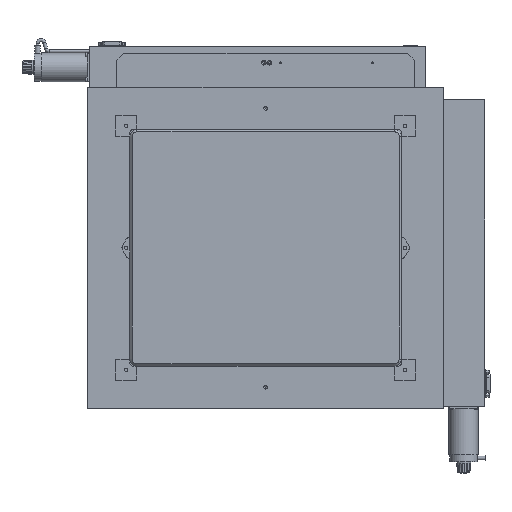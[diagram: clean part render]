
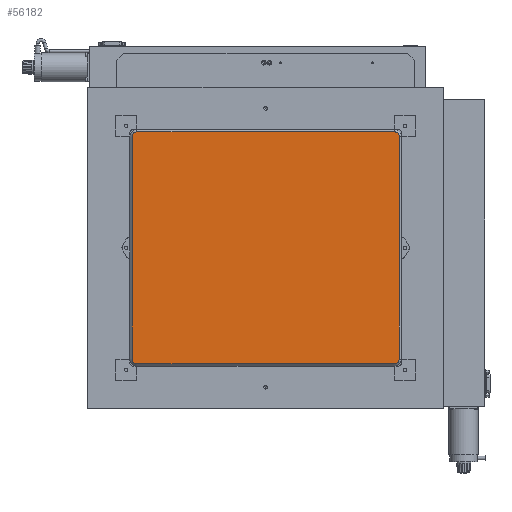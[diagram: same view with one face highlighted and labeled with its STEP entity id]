
A CAD part, top view. The second image highlights one B-rep face of the part: STEP entity #56182.
In plain terms, the highlighted planar face has unit normal (0, 0, 1).
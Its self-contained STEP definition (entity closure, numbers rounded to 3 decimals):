
#4977=CIRCLE('',#61143,7.);
#4978=CIRCLE('',#61145,7.);
#4979=CIRCLE('',#61149,7.);
#4982=CIRCLE('',#61153,7.);
#7924=FACE_OUTER_BOUND('',#11550,.T.);
#11550=EDGE_LOOP('',(#48597,#48598,#48599,#48600,#48601,#48602,#48603,#48604));
#16147=LINE('',#98020,#20757);
#16152=LINE('',#98034,#20762);
#16155=LINE('',#98039,#20765);
#16159=LINE('',#98054,#20769);
#20757=VECTOR('',#75082,10.);
#20762=VECTOR('',#75097,10.);
#20765=VECTOR('',#75102,10.);
#20769=VECTOR('',#75120,10.);
#25925=VERTEX_POINT('',#98017);
#25926=VERTEX_POINT('',#98019);
#25927=VERTEX_POINT('',#98023);
#25928=VERTEX_POINT('',#98027);
#25930=VERTEX_POINT('',#98032);
#25931=VERTEX_POINT('',#98037);
#25933=VERTEX_POINT('',#98042);
#25934=VERTEX_POINT('',#98047);
#33473=EDGE_CURVE('',#25925,#25926,#16147,.T.);
#33476=EDGE_CURVE('',#25927,#25925,#4977,.T.);
#33478=EDGE_CURVE('',#25926,#25928,#4978,.T.);
#33480=EDGE_CURVE('',#25930,#25927,#16152,.T.);
#33483=EDGE_CURVE('',#25928,#25931,#16155,.T.);
#33485=EDGE_CURVE('',#25933,#25930,#4979,.T.);
#33489=EDGE_CURVE('',#25931,#25934,#4982,.T.);
#33491=EDGE_CURVE('',#25934,#25933,#16159,.T.);
#48597=ORIENTED_EDGE('',*,*,#33473,.F.);
#48598=ORIENTED_EDGE('',*,*,#33476,.F.);
#48599=ORIENTED_EDGE('',*,*,#33480,.F.);
#48600=ORIENTED_EDGE('',*,*,#33485,.F.);
#48601=ORIENTED_EDGE('',*,*,#33491,.F.);
#48602=ORIENTED_EDGE('',*,*,#33489,.F.);
#48603=ORIENTED_EDGE('',*,*,#33483,.F.);
#48604=ORIENTED_EDGE('',*,*,#33478,.F.);
#50305=PLANE('',#61157);
#56182=ADVANCED_FACE('',(#7924),#50305,.T.);
#61143=AXIS2_PLACEMENT_3D('',#98025,#75087,#75088);
#61145=AXIS2_PLACEMENT_3D('',#98029,#75092,#75093);
#61149=AXIS2_PLACEMENT_3D('',#98044,#75106,#75107);
#61153=AXIS2_PLACEMENT_3D('',#98051,#75115,#75116);
#61157=AXIS2_PLACEMENT_3D('',#98059,#75127,#75128);
#75082=DIRECTION('',(0.,1.,0.));
#75087=DIRECTION('center_axis',(0.,0.,-1.));
#75088=DIRECTION('ref_axis',(-0.707,-0.707,0.));
#75092=DIRECTION('center_axis',(0.,0.,-1.));
#75093=DIRECTION('ref_axis',(-0.707,0.707,0.));
#75097=DIRECTION('',(-1.,0.,0.));
#75102=DIRECTION('',(1.,0.,0.));
#75106=DIRECTION('center_axis',(0.,0.,-1.));
#75107=DIRECTION('ref_axis',(0.707,-0.707,0.));
#75115=DIRECTION('center_axis',(0.,0.,-1.));
#75116=DIRECTION('ref_axis',(0.707,0.707,0.));
#75120=DIRECTION('',(0.,-1.,0.));
#75127=DIRECTION('center_axis',(0.,0.,1.));
#75128=DIRECTION('ref_axis',(1.,0.,0.));
#98017=CARTESIAN_POINT('',(3.,10.,8.));
#98019=CARTESIAN_POINT('',(3.,329.,8.));
#98020=CARTESIAN_POINT('',(3.,84.75,8.));
#98023=CARTESIAN_POINT('',(10.,3.,8.));
#98025=CARTESIAN_POINT('Origin',(10.,10.,8.));
#98027=CARTESIAN_POINT('',(10.,336.,8.));
#98029=CARTESIAN_POINT('Origin',(10.,329.,8.));
#98032=CARTESIAN_POINT('',(379.,3.,8.));
#98034=CARTESIAN_POINT('',(291.75,3.,8.));
#98037=CARTESIAN_POINT('',(379.,336.,8.));
#98039=CARTESIAN_POINT('',(97.25,336.,8.));
#98042=CARTESIAN_POINT('',(386.,10.,8.));
#98044=CARTESIAN_POINT('Origin',(379.,10.,8.));
#98047=CARTESIAN_POINT('',(386.,329.,8.));
#98051=CARTESIAN_POINT('Origin',(379.,329.,8.));
#98054=CARTESIAN_POINT('',(386.,254.25,8.));
#98059=CARTESIAN_POINT('Origin',(194.5,169.5,8.));
